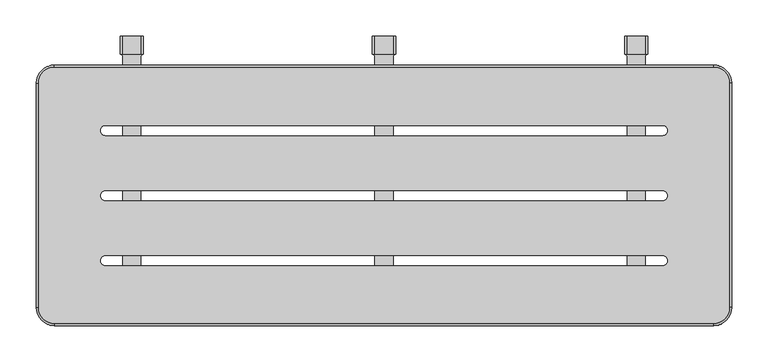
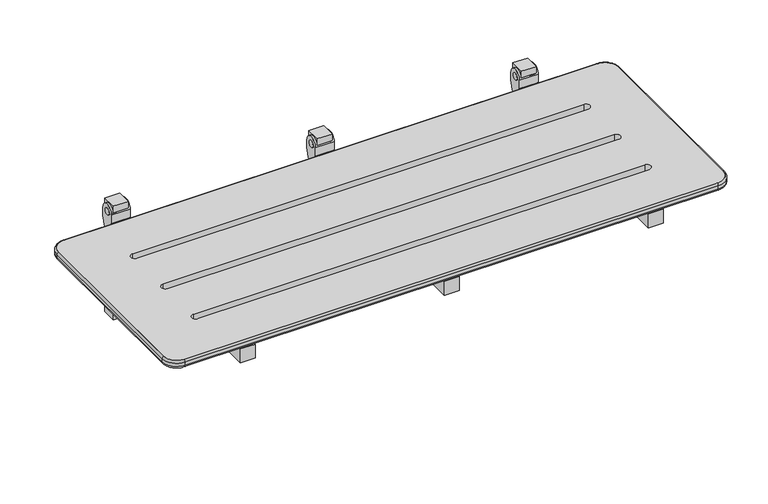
"""IFC4 building model written with IfcOpenShell, lengths in millimetres: proxy geometry, Shower Seat_Metlam_Folding : 960w x 400d x 205h (ML991_CL)."""

import ifcopenshell
import ifcopenshell.guid

model = None  # the IFC model being written
_history = None  # IfcOwnerHistory: only IFC2X3 demands one
_inside = {}  # id of a spatial element -> (the spatial element, [elements in it])
_under = {}  # id of a project, library or spatial element -> (it, [spatial elements below it])
_declared = {}  # id of a project -> (the project, [libraries it declares])
_typed = {}  # id of a type object -> (the type object, [elements of that type])
_made_of = {}  # id of a material, layer set ... -> (it, [elements and type objects made of it])


def new_model(schema):
    """Start an empty IFC model of exactly this schema.

    Asked for "IFC4X3", IfcOpenShell would pick the latest addendum, in which some entities
    have other attributes; the version numbers below select the first issue.
    IFC2X3 requires an IfcOwnerHistory on every rooted entity: one is made here for all.
    """
    global model, _history
    if schema == "IFC4X3":
        model = ifcopenshell.file(schema_version=(4, 3, 0, 0))
    else:
        model = ifcopenshell.file(schema=schema)
    _inside.clear()
    _under.clear()
    _declared.clear()
    _typed.clear()
    _made_of.clear()
    _history = None
    if model.schema == "IFC2X3":
        org = make("IfcOrganization", Name="unknown")
        user = make(
            "IfcPersonAndOrganization",
            ThePerson=make("IfcPerson", FamilyName="unknown"),
            TheOrganization=org,
        )
        app = make(
            "IfcApplication",
            ApplicationDeveloper=org,
            Version="unknown",
            ApplicationFullName="unknown",
            ApplicationIdentifier="unknown",
        )
        _history = make(
            "IfcOwnerHistory",
            OwningUser=user,
            OwningApplication=app,
            ChangeAction="ADDED",
            CreationDate=0,
        )
    return model


def make(cls, **values):
    """One entity of the class cls with the attributes given. An attribute that is None is left unset."""
    return model.create_entity(
        cls, **{name: value for name, value in values.items() if value is not None}
    )


def rooted(cls, **values):
    """An entity with a GlobalId (a new one), such as an element, a storey or a relation."""
    return make(cls, GlobalId=ifcopenshell.guid.new(), OwnerHistory=_history, **values)


def si_unit(unit_type, name, prefix=None):
    """IfcSIUnit, for example si_unit("LENGTHUNIT", "METRE", prefix="MILLI")."""
    return make("IfcSIUnit", UnitType=unit_type, Prefix=prefix, Name=name)


def assignment(units):
    """IfcUnitAssignment: the units of a project."""
    return None if units is None else make("IfcUnitAssignment", Units=units)


def point(xyz):
    """IfcCartesianPoint."""
    return None if xyz is None else make("IfcCartesianPoint", Coordinates=xyz)


def direction(xyz):
    """IfcDirection."""
    return None if xyz is None else make("IfcDirection", DirectionRatios=xyz)


def frame(location, z_axis=None, x_axis=None):
    """IfcAxis2Placement3D, a coordinate frame: its origin and axes. An axis left out is left unset."""
    return make(
        "IfcAxis2Placement3D",
        Location=point(location),
        Axis=direction(z_axis),
        RefDirection=direction(x_axis),
    )


def frame_2d(location, x_axis=None):
    """IfcAxis2Placement2D, a coordinate frame in the plane: its origin and x axis."""
    return make(
        "IfcAxis2Placement2D", Location=point(location), RefDirection=direction(x_axis)
    )


def origin():
    """The frame at (0, 0, 0) with its axes left unset."""
    return frame((0.0, 0.0, 0.0))


def place(relative_to, where):
    """IfcLocalPlacement: puts the frame where relative to a parent placement (None: the world)."""
    return make(
        "IfcLocalPlacement", PlacementRelTo=relative_to, RelativePlacement=where
    )


def context(
    kind, dimensions, precision=None, world=None, true_north=None, identifier=None
):
    """IfcGeometricRepresentationContext, for example the 3D "Model" context."""
    return make(
        "IfcGeometricRepresentationContext",
        ContextIdentifier=identifier,
        ContextType=kind,
        CoordinateSpaceDimension=dimensions,
        Precision=precision,
        WorldCoordinateSystem=world,
        TrueNorth=true_north,
    )


def project(units=None, contexts=None):
    """IfcProject with its units and contexts."""
    return rooted(
        "IfcProject",
        Name="project",
        RepresentationContexts=contexts,
        UnitsInContext=assignment(units),
    )


def spatial(cls, under=None, at=None, **own):
    """A site, building, storey or space (cls), placed at a placement, below another one or the project."""
    s = rooted(cls, ObjectPlacement=at, **own)
    if under is not None:
        _under.setdefault(under.id(), (under, []))[1].append(s)
    return s


def polyline(points):
    """IfcPolyline through the points."""
    return make("IfcPolyline", Points=[point(p) for p in points])


def circle_curve(where, radius):
    """IfcCircle in the frame where."""
    return make("IfcCircle", Position=where, Radius=radius)


def ellipse_curve(where, semi_axis1, semi_axis2):
    """IfcEllipse in the frame where."""
    return make(
        "IfcEllipse", Position=where, SemiAxis1=semi_axis1, SemiAxis2=semi_axis2
    )


def trimmed(basis, trim1, trim2, sense, master):
    """IfcTrimmedCurve: the piece of a basis curve between two trims."""
    return make(
        "IfcTrimmedCurve",
        BasisCurve=basis,
        Trim1=trim1,
        Trim2=trim2,
        SenseAgreement=sense,
        MasterRepresentation=master,
    )


def segment(curve, same_sense, transition):
    """IfcCompositeCurveSegment."""
    return make(
        "IfcCompositeCurveSegment",
        Transition=transition,
        SameSense=same_sense,
        ParentCurve=curve,
    )


def composite_curve(segments, self_intersect=None):
    """IfcCompositeCurve: segments joined end to end."""
    return make("IfcCompositeCurve", Segments=segments, SelfIntersect=self_intersect)


def outline(outer, holes=None, kind="AREA"):
    """IfcArbitraryClosedProfileDef: a profile drawn as a closed curve; with holes, ...WithVoids."""
    if holes is None:
        return make("IfcArbitraryClosedProfileDef", ProfileType=kind, OuterCurve=outer)
    return make(
        "IfcArbitraryProfileDefWithVoids",
        ProfileType=kind,
        OuterCurve=outer,
        InnerCurves=holes,
    )


def extrude(swept, where, along, depth):
    """IfcExtrudedAreaSolid: the profile swept, set in the frame where, extruded along a direction by depth."""
    return make(
        "IfcExtrudedAreaSolid",
        SweptArea=swept,
        Position=where,
        ExtrudedDirection=direction(along),
        Depth=depth,
    )


def shape(context_of_items, identifier, shape_type, items):
    """IfcShapeRepresentation: the items that make up one representation, for example the "Body"."""
    return make(
        "IfcShapeRepresentation",
        ContextOfItems=context_of_items,
        RepresentationIdentifier=identifier,
        RepresentationType=shape_type,
        Items=items,
    )


def source(mapping_origin, context_of_items, identifier, shape_type, items):
    """IfcRepresentationMap: a shape defined once, which mapped items show again and again."""
    return make(
        "IfcRepresentationMap",
        MappingOrigin=mapping_origin,
        MappedRepresentation=shape(context_of_items, identifier, shape_type, items),
    )


def transform(
    local_origin,
    x_axis=None,
    y_axis=None,
    z_axis=None,
    scale=None,
    scale2=None,
    scale3=None,
    uniform=True,
):
    """IfcCartesianTransformationOperator3D, or its non-uniform kind. x_axis, y_axis, z_axis: its Axis1, 2, 3."""
    if uniform:
        return make(
            "IfcCartesianTransformationOperator3D",
            Axis1=direction(x_axis),
            Axis2=direction(y_axis),
            LocalOrigin=point(local_origin),
            Scale=scale,
            Axis3=direction(z_axis),
        )
    return make(
        "IfcCartesianTransformationOperator3DnonUniform",
        Axis1=direction(x_axis),
        Axis2=direction(y_axis),
        LocalOrigin=point(local_origin),
        Scale=scale,
        Axis3=direction(z_axis),
        Scale2=scale2,
        Scale3=scale3,
    )


def mapped(mapping_source, mapping_target):
    """IfcMappedItem: shows the shape of a source again, moved by a transform."""
    return make(
        "IfcMappedItem", MappingSource=mapping_source, MappingTarget=mapping_target
    )


def made_of(thing, what):
    """Note that an element or type object is made of a material, layer set ...; save() writes the relation."""
    if what is not None:
        _made_of.setdefault(what.id(), (what, []))[1].append(thing)
    return thing


def element(
    cls,
    number,
    at=None,
    inside=None,
    cuts=None,
    type_object=None,
    material=None,
    context=None,
    identifier="Body",
    shape_type=None,
    held_by="IfcProductDefinitionShape",
    body=None,
    shapes=None,
    **own,
):
    """One element of the class cls, such as IfcWall. Its Tag is "e" and its number.

    at: its placement. inside: the storey or other place that contains it. cuts: it is an
    opening in that element (IfcRelVoidsElement). A single representation is given by context,
    identifier, shape_type and body (its items); several are given by shapes. held_by: the class
    of the entity that holds the representations. save() writes the other relations.
    """
    e = rooted(cls, Tag="e%d" % number, ObjectPlacement=at, **own)
    if body is not None:
        shapes = [shape(context, identifier, shape_type, body)]
    if shapes is not None:
        e.Representation = make(held_by, Representations=shapes)
    if inside is not None:
        _inside.setdefault(inside.id(), (inside, []))[1].append(e)
    if cuts is not None:
        rooted(
            "IfcRelVoidsElement", RelatingBuildingElement=cuts, RelatedOpeningElement=e
        )
    if type_object is not None:
        _typed.setdefault(type_object.id(), (type_object, []))[1].append(e)
    return made_of(e, material)


def aggregate(whole, parts):
    """IfcRelAggregates: a whole, such as a stair, and the parts it consists of."""
    return rooted("IfcRelAggregates", RelatingObject=whole, RelatedObjects=parts)


def save(model, path):
    """Write the relations noted so far, then the file.

    IfcRelAggregates (storeys below a building ...), IfcRelContainedInSpatialStructure (elements
    in a storey), IfcRelDefinesByType, IfcRelAssociatesMaterial and IfcRelDeclares: one each for
    every whole, place, type object, material and project.
    """
    for whole, parts in _under.values():
        aggregate(whole, parts)
    for where, things in _inside.values():
        rooted(
            "IfcRelContainedInSpatialStructure",
            RelatedElements=things,
            RelatingStructure=where,
        )
    for kind, things in _typed.values():
        rooted("IfcRelDefinesByType", RelatedObjects=things, RelatingType=kind)
    for what, things in _made_of.values():
        rooted("IfcRelAssociatesMaterial", RelatedObjects=things, RelatingMaterial=what)
    for by, libraries in _declared.values():
        rooted("IfcRelDeclares", RelatingContext=by, RelatedDefinitions=libraries)
    model.write(path)


def plane_surface(at):
    """IfcPlane: the flat surface through the origin of the frame at, square to its z axis."""
    return make("IfcPlane", Position=at)


def cylinder_surface(at, radius):
    """IfcCylindricalSurface: all points at the distance radius from the z axis of the frame at."""
    return make("IfcCylindricalSurface", Position=at, Radius=radius)


def revolved_surface(curve, axis_point, axis_direction):
    """IfcSurfaceOfRevolution: the curve turned about the line through axis_point along axis_direction."""
    return make(
        "IfcSurfaceOfRevolution",
        SweptCurve=make("IfcArbitraryOpenProfileDef", ProfileType="CURVE", Curve=curve),
        AxisPosition=make("IfcAxis1Placement", Location=point(axis_point), Axis=direction(axis_direction)),
    )


def advanced_brep(points, edges, surfaces, faces):
    """IfcAdvancedBrep: a solid bounded by faces that lie on surfaces and meet in shared edges.

    An edge is (start, end): straight between two places in points (the first is 0);
    or (start, end, curve); or (start, end, curve, False) where it runs against its curve.
    A face is (place in surfaces, loops), or (place, loops, False) where it looks against
    its surface's normal. A loop lists edges by number (the first is 1), with a minus sign
    where the edge is run from its end to its start. The first loop is the outer one.
    """
    corners = [point(p) for p in points]
    vertices = [make("IfcVertexPoint", VertexGeometry=c) for c in corners]
    made = []
    for start, end, *more in edges:
        made.append(
            make(
                "IfcEdgeCurve",
                EdgeStart=vertices[start],
                EdgeEnd=vertices[end],
                EdgeGeometry=more[0] if more else make("IfcPolyline", Points=[corners[start], corners[end]]),
                SameSense=more[1] if len(more) > 1 else True,
            )
        )
    hull = []
    for where, loops, *sense in faces:
        bounds = []
        for j, loop in enumerate(loops):
            ring = [make("IfcOrientedEdge", EdgeElement=made[abs(k) - 1], Orientation=k > 0) for k in loop]
            bounds.append(
                make(
                    "IfcFaceOuterBound" if j == 0 else "IfcFaceBound",
                    Bound=make("IfcEdgeLoop", EdgeList=ring),
                    Orientation=True,
                )
            )
        hull.append(make("IfcAdvancedFace", Bounds=bounds, FaceSurface=surfaces[where], SameSense=sense[0] if sense else True))
    return make("IfcAdvancedBrep", Outer=make("IfcClosedShell", CfsFaces=hull))


def specialty_equipment_4b575479(model_context):
    return source(origin(), model_context, "Body", "SolidModel", [
        advanced_brep(
        [(-558.8282526, -245.8822574, 437.0), (-558.8282526, -245.8822574, 462.0), (-526.8282526, -245.8822574, 462.0), (-526.8282526, -245.8822574, 437.0), (-530.3282526, -620.8995044, 462.0), (-555.3282526, -620.8995044, 462.0), (-555.3282526, -620.8995044, 437.0), (-530.3282526, -620.8995044, 437.0), (-530.3282526, -249.3822574, 437.0), (-530.3282526, -249.3822574, 462.0), (-555.3282526, -249.3822574, 437.0), (-555.3282526, -249.3822574, 462.0)],
        [
            (0, 1),
            (1, 2),
            (2, 3),
            (3, 0),
            (4, 5),
            (5, 6),
            (6, 7),
            (7, 4),
            (7, 8),
            (8, 9),
            (9, 4),
            (3, 8, circle_curve(frame((-526.8282526, -249.3822574, 437.0), z_axis=(0.0, 0.0, 1.0), x_axis=(-1.0, 0.0, 0.0)), 3.5)),
            (6, 10),
            (10, 0, circle_curve(frame((-558.8282526, -249.3822574, 437.0), z_axis=(0.0, 0.0, 1.0), x_axis=(-1.0, 0.0, 0.0)), 3.5)),
            (5, 11),
            (11, 10),
            (1, 11, circle_curve(frame((-558.8282526, -249.3822574, 462.0), z_axis=(0.0, 0.0, -1.0), x_axis=(-1.0, 0.0, 0.0)), 3.5)),
            (9, 2, circle_curve(frame((-526.8282526, -249.3822574, 462.0), z_axis=(0.0, 0.0, -1.0), x_axis=(-1.0, 0.0, 0.0)), 3.5)),
        ],
        [
            plane_surface(frame((-530.3282526, -245.8822574, 462.0), z_axis=(0.0, 1.0, 0.0), x_axis=(0.0, 0.0, -1.0))),
            plane_surface(frame((-530.3282526, -620.8995044, 462.0), z_axis=(0.0, -1.0, 0.0), x_axis=(0.0, 0.0, 1.0))),
            plane_surface(frame((-530.3282526, -245.8822574, 462.0), z_axis=(1.0, 0.0, 0.0), x_axis=(0.0, -1.0, 0.0))),
            plane_surface(frame((-530.3282526, -245.8822574, 437.0), z_axis=(0.0, 0.0, -1.0), x_axis=(0.0, -1.0, 0.0))),
            plane_surface(frame((-555.3282526, -245.8822574, 437.0), z_axis=(-1.0, 0.0, 0.0), x_axis=(0.0, -1.0, 0.0))),
            plane_surface(frame((-555.3282526, -245.8822574, 462.0), z_axis=(0.0, 0.0, 1.0), x_axis=(0.0, -1.0, 0.0))),
            revolved_surface(polyline([(-562.3282526, -249.3822574, 437.0), (-562.3282526, -249.3822574, 462.0)]), (-558.8282526, -249.3822574, 437.0), (0.0, 0.0, -1.0)),
            revolved_surface(polyline([(-530.3282526, -249.3822574, 437.0), (-530.3282526, -249.3822574, 462.0)]), (-526.8282526, -249.3822574, 492.2814789), (0.0, 0.0, -1.0)),
        ],
        [
            (0, [[1, 2, 3, 4]]),
            (1, [[5, 6, 7, 8]]),
            (2, [[-8, 9, 10, 11]]),
            (3, [[-4, 12, -9, -7, 13, 14]]),
            (4, [[-6, 15, 16, -13]]),
            (5, [[-2, 17, -15, -5, -11, 18]]),
            (6, [[-17, -1, -14, -16]]),
            (7, [[-18, -10, -12, -3]]),
        ],
    ),
        advanced_brep(
        [(137.1717474, -245.8822574, 437.0), (137.1717474, -245.8822574, 462.0), (169.1717474, -245.8822574, 462.0), (169.1717474, -245.8822574, 437.0), (165.6717474, -620.8995044, 462.0), (140.6717474, -620.8995044, 462.0), (140.6717474, -620.8995044, 437.0), (165.6717474, -620.8995044, 437.0), (165.6717474, -249.3822574, 437.0), (140.6717474, -249.3822574, 437.0), (140.6717474, -249.3822574, 462.0), (165.6717474, -249.3822574, 462.0)],
        [
            (0, 1),
            (1, 2),
            (2, 3),
            (3, 0),
            (4, 5),
            (5, 6),
            (6, 7),
            (7, 4),
            (3, 8, circle_curve(frame((169.1717474, -249.3822574, 437.0), z_axis=(0.0, 0.0, 1.0), x_axis=(-1.0, 0.0, 0.0)), 3.5)),
            (8, 7),
            (6, 9),
            (9, 0, circle_curve(frame((137.1717474, -249.3822574, 437.0), z_axis=(0.0, 0.0, 1.0), x_axis=(-1.0, 0.0, 0.0)), 3.5)),
            (1, 10, circle_curve(frame((137.1717474, -249.3822574, 462.0), z_axis=(0.0, 0.0, -1.0), x_axis=(-1.0, 0.0, 0.0)), 3.5)),
            (10, 5),
            (4, 11),
            (11, 2, circle_curve(frame((169.1717474, -249.3822574, 462.0), z_axis=(0.0, 0.0, -1.0), x_axis=(-1.0, 0.0, 0.0)), 3.5)),
            (8, 11),
            (10, 9),
        ],
        [
            plane_surface(frame((-530.3282526, -245.8822574, 462.0), z_axis=(0.0, 1.0, 0.0), x_axis=(0.0, 0.0, -1.0))),
            plane_surface(frame((-530.3282526, -620.8995044, 462.0), z_axis=(0.0, -1.0, 0.0), x_axis=(0.0, 0.0, 1.0))),
            plane_surface(frame((-530.3282526, -245.8822574, 437.0), z_axis=(0.0, 0.0, -1.0), x_axis=(0.0, -1.0, 0.0))),
            plane_surface(frame((-555.3282526, -245.8822574, 462.0), z_axis=(0.0, 0.0, 1.0), x_axis=(0.0, -1.0, 0.0))),
            plane_surface(frame((165.6717474, -245.8822574, 462.0), z_axis=(1.0, 0.0, 0.0), x_axis=(0.0, -1.0, 0.0))),
            plane_surface(frame((140.6717474, -245.8822574, 437.0), z_axis=(-1.0, 0.0, 0.0), x_axis=(0.0, -1.0, 0.0))),
            revolved_surface(polyline([(165.6717474, -249.3822574, 437.0), (165.6717474, -249.3822574, 462.0)]), (169.1717474, -249.3822574, 492.2814789), (0.0, 0.0, -1.0)),
            revolved_surface(polyline([(133.6717474, -249.3822574, 437.0), (133.6717474, -249.3822574, 462.0)]), (137.1717474, -249.3822574, 492.2814789), (0.0, 0.0, -1.0)),
        ],
        [
            (0, [[1, 2, 3, 4]]),
            (1, [[5, 6, 7, 8]]),
            (2, [[-4, 9, 10, -7, 11, 12]]),
            (3, [[-2, 13, 14, -5, 15, 16]]),
            (4, [[-8, -10, 17, -15]]),
            (5, [[-6, -14, 18, -11]]),
            (6, [[-16, -17, -9, -3]]),
            (7, [[-13, -1, -12, -18]]),
        ],
    ),
        advanced_brep(
        [(-210.8282526, -245.8822574, 437.0), (-210.8282526, -245.8822574, 462.0), (-178.8282526, -245.8822574, 462.0), (-178.8282526, -245.8822574, 437.0), (-182.3282526, -620.8995044, 462.0), (-207.3282526, -620.8995044, 462.0), (-207.3282526, -620.8995044, 437.0), (-182.3282526, -620.8995044, 437.0), (-182.3282526, -249.3822574, 437.0), (-207.3282526, -249.3822574, 437.0), (-207.3282526, -249.3822574, 462.0), (-182.3282526, -249.3822574, 462.0)],
        [
            (0, 1),
            (1, 2),
            (2, 3),
            (3, 0),
            (4, 5),
            (5, 6),
            (6, 7),
            (7, 4),
            (3, 8, circle_curve(frame((-178.8282526, -249.3822574, 437.0), z_axis=(0.0, 0.0, 1.0), x_axis=(-1.0, 0.0, 0.0)), 3.5)),
            (8, 7),
            (6, 9),
            (9, 0, circle_curve(frame((-210.8282526, -249.3822574, 437.0), z_axis=(0.0, 0.0, 1.0), x_axis=(-1.0, 0.0, 0.0)), 3.5)),
            (1, 10, circle_curve(frame((-210.8282526, -249.3822574, 462.0), z_axis=(0.0, 0.0, -1.0), x_axis=(-1.0, 0.0, 0.0)), 3.5)),
            (10, 5),
            (4, 11),
            (11, 2, circle_curve(frame((-178.8282526, -249.3822574, 462.0), z_axis=(0.0, 0.0, -1.0), x_axis=(-1.0, 0.0, 0.0)), 3.5)),
            (8, 11),
            (10, 9),
        ],
        [
            plane_surface(frame((-530.3282526, -245.8822574, 462.0), z_axis=(0.0, 1.0, 0.0), x_axis=(0.0, 0.0, -1.0))),
            plane_surface(frame((-530.3282526, -620.8995044, 462.0), z_axis=(0.0, -1.0, 0.0), x_axis=(0.0, 0.0, 1.0))),
            plane_surface(frame((-530.3282526, -245.8822574, 437.0), z_axis=(0.0, 0.0, -1.0), x_axis=(0.0, -1.0, 0.0))),
            plane_surface(frame((-555.3282526, -245.8822574, 462.0), z_axis=(0.0, 0.0, 1.0), x_axis=(0.0, -1.0, 0.0))),
            plane_surface(frame((-182.3282526, -245.8822574, 462.0), z_axis=(1.0, 0.0, 0.0), x_axis=(0.0, -1.0, 0.0))),
            plane_surface(frame((-207.3282526, -245.8822574, 437.0), z_axis=(-1.0, 0.0, 0.0), x_axis=(0.0, -1.0, 0.0))),
            revolved_surface(polyline([(-182.3282526, -249.3822574, 437.0), (-182.3282526, -249.3822574, 462.0)]), (-178.8282526, -249.3822574, 492.2814789), (0.0, 0.0, -1.0)),
            revolved_surface(polyline([(-214.3282526, -249.3822574, 437.0), (-214.3282526, -249.3822574, 462.0)]), (-210.8282526, -249.3822574, 492.2814789), (0.0, 0.0, -1.0)),
        ],
        [
            (0, [[1, 2, 3, 4]]),
            (1, [[5, 6, 7, 8]]),
            (2, [[-4, 9, 10, -7, 11, 12]]),
            (3, [[-2, 13, 14, -5, 15, 16]]),
            (4, [[-8, -10, 17, -15]]),
            (5, [[-6, -14, 18, -11]]),
            (6, [[-16, -17, -9, -3]]),
            (7, [[-13, -1, -12, -18]]),
        ],
    ),
        extrude(outline(composite_curve([segment(trimmed(circle_curve(frame_2d((-233.3641732, 476.6816241)), 5.8579938), [point((-233.3641732, 470.8236303))], [point((-233.3641732, 482.539618))], False, "CARTESIAN"), True, "CONTINUOUS"), segment(trimmed(circle_curve(frame_2d((-233.3641732, 476.6816241)), 5.8579938), [point((-233.3641732, 482.539618))], [point((-233.3641732, 470.8236303))], False, "CARTESIAN"), True, "CONTINUOUS")], self_intersect=False)), frame((-210.8282526, 0.0, 0.0), z_axis=(1.0, 0.0, 0.0), x_axis=(0.0, 1.0, 0.0)), (0.0, 0.0, 1.0), 32.0),
        extrude(outline(composite_curve([segment(trimmed(circle_curve(frame_2d((-233.3641732, 476.6816241)), 5.8579938), [point((-233.3641732, 470.8236303))], [point((-233.3641732, 482.539618))], False, "CARTESIAN"), True, "CONTINUOUS"), segment(trimmed(circle_curve(frame_2d((-233.3641732, 476.6816241)), 5.8579938), [point((-233.3641732, 482.539618))], [point((-233.3641732, 470.8236303))], False, "CARTESIAN"), True, "CONTINUOUS")], self_intersect=False)), frame((-558.8282526, 0.0, 0.0), z_axis=(1.0, 0.0, 0.0), x_axis=(0.0, 1.0, 0.0)), (0.0, 0.0, 1.0), 32.0),
        extrude(outline(composite_curve([segment(trimmed(circle_curve(frame_2d((-233.3641732, 476.6816241)), 5.8579938), [point((-233.3641732, 470.8236303))], [point((-233.3641732, 482.539618))], False, "CARTESIAN"), True, "CONTINUOUS"), segment(trimmed(circle_curve(frame_2d((-233.3641732, 476.6816241)), 5.8579938), [point((-233.3641732, 482.539618))], [point((-233.3641732, 470.8236303))], False, "CARTESIAN"), True, "CONTINUOUS")], self_intersect=False)), frame((137.1717474, 0.0, 0.0), z_axis=(1.0, 0.0, 0.0), x_axis=(0.0, 1.0, 0.0)), (0.0, 0.0, 1.0), 32.0),
        extrude(outline(composite_curve([segment(polyline([(-220.8995044, 477.2538235), (-220.8995044, 462.0007534)]), True, "CONTINUOUS"), segment(trimmed(circle_curve(frame_2d((-245.8995044, 462.0007534)), 25.0), [point((-220.8995044, 462.0007534))], [point((-245.8822574, 437.0007594))], False, "CARTESIAN"), True, "CONTINUOUS"), segment(polyline([(-245.8822574, 437.0007594), (-245.8822574, 477.2538235)]), True, "CONTINUOUS"), segment(trimmed(circle_curve(frame_2d((-233.3908809, 477.2538235)), 12.4913765), [point((-245.8822574, 477.2538235))], [point((-220.8995044, 477.2538235))], False, "CARTESIAN"), True, "CONTINUOUS")], self_intersect=False)), frame((-558.8282526, 0.0, 0.0), z_axis=(1.0, 0.0, 0.0), x_axis=(0.0, 1.0, 0.0)), (0.0, 0.0, 1.0), 32.0),
        extrude(outline(composite_curve([segment(polyline([(-220.8995044, 477.2538235), (-220.8995044, 462.0007534)]), True, "CONTINUOUS"), segment(trimmed(circle_curve(frame_2d((-245.8995044, 462.0007534)), 25.0), [point((-220.8995044, 462.0007534))], [point((-245.8822574, 437.0007594))], False, "CARTESIAN"), True, "CONTINUOUS"), segment(polyline([(-245.8822574, 437.0007594), (-245.8822574, 477.2538235)]), True, "CONTINUOUS"), segment(trimmed(circle_curve(frame_2d((-233.3908809, 477.2538235)), 12.4913765), [point((-245.8822574, 477.2538235))], [point((-220.8995044, 477.2538235))], False, "CARTESIAN"), True, "CONTINUOUS")], self_intersect=False)), frame((137.1717474, 0.0, 0.0), z_axis=(1.0, 0.0, 0.0), x_axis=(0.0, 1.0, 0.0)), (0.0, 0.0, 1.0), 32.0),
        extrude(outline(composite_curve([segment(polyline([(-220.8995044, 477.2538235), (-220.8995044, 462.0007534)]), True, "CONTINUOUS"), segment(trimmed(circle_curve(frame_2d((-245.8995044, 462.0007534)), 25.0), [point((-220.8995044, 462.0007534))], [point((-245.8822574, 437.0007594))], False, "CARTESIAN"), True, "CONTINUOUS"), segment(polyline([(-245.8822574, 437.0007594), (-245.8822574, 477.2538235)]), True, "CONTINUOUS"), segment(trimmed(circle_curve(frame_2d((-233.3908809, 477.2538235)), 12.4913765), [point((-245.8822574, 477.2538235))], [point((-220.8995044, 477.2538235))], False, "CARTESIAN"), True, "CONTINUOUS")], self_intersect=False)), frame((-210.8282526, 0.0, 0.0), z_axis=(1.0, 0.0, 0.0), x_axis=(0.0, 1.0, 0.0)), (0.0, 0.0, 1.0), 32.0),
        extrude(outline(polyline([(492.2814789, 165.6717474), (492.2814789, 140.6717474), (287.2814789, 140.6717474), (287.2814789, 165.6717474), (492.2814789, 165.6717474)]), holes=[composite_curve([segment(trimmed(circle_curve(frame_2d((313.2814789, 153.1717474)), 3.5), [point((313.2814789, 156.6717474))], [point((313.2814789, 149.6717474))], True, "CARTESIAN"), True, "CONTINUOUS"), segment(trimmed(circle_curve(frame_2d((313.2814789, 153.1717474)), 3.5), [point((313.2814789, 149.6717474))], [point((313.2814789, 156.6717474))], True, "CARTESIAN"), True, "CONTINUOUS")], self_intersect=False), composite_curve([segment(trimmed(circle_curve(frame_2d((423.2814789, 153.1717474)), 3.5), [point((423.2814789, 156.6717474))], [point((423.2814789, 149.6717474))], True, "CARTESIAN"), True, "CONTINUOUS"), segment(trimmed(circle_curve(frame_2d((423.2814789, 153.1717474)), 3.5), [point((423.2814789, 149.6717474))], [point((423.2814789, 156.6717474))], True, "CARTESIAN"), True, "CONTINUOUS")], self_intersect=False)]), frame((0.0, -245.8995044, 0.0), z_axis=(0.0, 1.0, 0.0), x_axis=(0.0, 0.0, 1.0)), (0.0, 0.0, 1.0), 25.0),
        extrude(outline(polyline([(492.2814789, -182.3282526), (492.2814789, -207.3282526), (287.2814789, -207.3282526), (287.2814789, -182.3282526), (492.2814789, -182.3282526)]), holes=[composite_curve([segment(trimmed(circle_curve(frame_2d((313.2814789, -194.8282526)), 3.5), [point((313.2814789, -191.3282526))], [point((313.2814789, -198.3282526))], True, "CARTESIAN"), True, "CONTINUOUS"), segment(trimmed(circle_curve(frame_2d((313.2814789, -194.8282526)), 3.5), [point((313.2814789, -198.3282526))], [point((313.2814789, -191.3282526))], True, "CARTESIAN"), True, "CONTINUOUS")], self_intersect=False), composite_curve([segment(trimmed(circle_curve(frame_2d((423.2814789, -194.8282526)), 3.5), [point((423.2814789, -191.3282526))], [point((423.2814789, -198.3282526))], True, "CARTESIAN"), True, "CONTINUOUS"), segment(trimmed(circle_curve(frame_2d((423.2814789, -194.8282526)), 3.5), [point((423.2814789, -198.3282526))], [point((423.2814789, -191.3282526))], True, "CARTESIAN"), True, "CONTINUOUS")], self_intersect=False)]), frame((0.0, -245.8995044, 0.0), z_axis=(0.0, 1.0, 0.0), x_axis=(0.0, 0.0, 1.0)), (0.0, 0.0, 1.0), 25.0),
        extrude(outline(polyline([(492.2814789, -530.3282526), (492.2814789, -555.3282526), (287.2814789, -555.3282526), (287.2814789, -530.3282526), (492.2814789, -530.3282526)]), holes=[composite_curve([segment(trimmed(circle_curve(frame_2d((313.2814789, -542.8282526)), 3.5), [point((313.2814789, -539.3282526))], [point((313.2814789, -546.3282526))], True, "CARTESIAN"), True, "CONTINUOUS"), segment(trimmed(circle_curve(frame_2d((313.2814789, -542.8282526)), 3.5), [point((313.2814789, -546.3282526))], [point((313.2814789, -539.3282526))], True, "CARTESIAN"), True, "CONTINUOUS")], self_intersect=False), composite_curve([segment(trimmed(circle_curve(frame_2d((423.2814789, -542.8282526)), 3.5), [point((423.2814789, -539.3282526))], [point((423.2814789, -546.3282526))], True, "CARTESIAN"), True, "CONTINUOUS"), segment(trimmed(circle_curve(frame_2d((423.2814789, -542.8282526)), 3.5), [point((423.2814789, -546.3282526))], [point((423.2814789, -539.3282526))], True, "CARTESIAN"), True, "CONTINUOUS")], self_intersect=False)]), frame((0.0, -245.8995044, 0.0), z_axis=(0.0, 1.0, 0.0), x_axis=(0.0, 0.0, 1.0)), (0.0, 0.0, 1.0), 25.0),
        advanced_brep(
        [(282.6717474, -595.8995044, 475.0), (260.1717474, -618.3995044, 475.0), (260.1717474, -620.8995044, 471.5), (285.1717474, -595.8995044, 471.5), (282.6717474, -595.8995044, 462.0), (260.1717474, -618.3995044, 462.0), (285.1717474, -595.8995044, 465.5039254), (260.1717474, -620.8995044, 465.5039254), (285.1717474, -285.8995044, 471.5), (282.6717474, -285.8995044, 475.0), (282.6717474, -285.8995044, 462.0), (285.1717474, -285.8995044, 465.5039254), (260.1717474, -263.3995044, 475.0), (260.1717474, -260.8995044, 471.5), (260.1717474, -263.3995044, 462.0), (260.1717474, -260.8995044, 465.5039254), (-649.8282526, -260.8995044, 471.5), (-649.8282526, -263.3995044, 475.0), (-649.8282526, -263.3995044, 462.0), (-649.8282526, -260.8995044, 465.5039254), (-672.3282526, -285.8995044, 475.0), (-674.8282526, -285.8995044, 471.5), (-672.3282526, -285.8995044, 462.0), (-674.8282526, -285.8995044, 465.5039254), (-674.8282526, -595.8995044, 471.5), (-672.3282526, -595.8995044, 475.0), (-672.3282526, -595.8995044, 462.0), (-674.8282526, -595.8995044, 465.5039254), (-649.8282526, -618.3995044, 475.0), (-649.8282526, -620.8995044, 471.5), (-649.8282526, -618.3995044, 462.0), (-649.8282526, -620.8995044, 465.5039254)],
        [
            (0, 1, circle_curve(frame((260.1717474, -595.8995044, 475.0), z_axis=(0.0, 0.0, -1.0), x_axis=(0.0, -1.0, 0.0)), 22.5)),
            (1, 2, circle_curve(frame((260.1717474, -617.1995044, 471.5), z_axis=(1.0, 0.0, 0.0), x_axis=(0.0, 1.0, 0.0)), 3.7)),
            (2, 3, circle_curve(frame((260.1717474, -595.8995044, 471.5), z_axis=(0.0, 0.0, 1.0), x_axis=(0.0, -1.0, 0.0)), 25.0)),
            (3, 0, circle_curve(frame((281.4717474, -595.8995044, 471.5), z_axis=(0.0, -1.0, 0.0), x_axis=(-1.0, 0.0, 0.0)), 3.7)),
            (4, 5, circle_curve(frame((260.1717474, -595.8995044, 462.0), z_axis=(0.0, 0.0, -1.0), x_axis=(0.0, -1.0, 0.0)), 22.5)),
            (5, 1),
            (0, 4),
            (6, 7, circle_curve(frame((260.1717474, -595.8995044, 465.5039254), z_axis=(0.0, 0.0, -1.0), x_axis=(0.0, -1.0, 0.0)), 25.0)),
            (7, 5, circle_curve(frame((260.1717474, -617.1940057, 465.5039254), z_axis=(1.0, 0.0, 0.0), x_axis=(0.0, 1.0, 0.0)), 3.7054987)),
            (4, 6, circle_curve(frame((281.4662487, -595.8995044, 465.5039254), z_axis=(0.0, -1.0, 0.0), x_axis=(-1.0, 0.0, 0.0)), 3.7054987)),
            (2, 7),
            (6, 3),
            (3, 8),
            (8, 9, circle_curve(frame((281.4717474, -285.8995044, 471.5), z_axis=(0.0, -1.0, 0.0), x_axis=(-1.0, 0.0, 0.0)), 3.7)),
            (9, 0),
            (9, 10),
            (10, 4),
            (10, 11, circle_curve(frame((281.4662487, -285.8995044, 465.5039254), z_axis=(0.0, -1.0, 0.0), x_axis=(-1.0, 0.0, 0.0)), 3.7054987)),
            (11, 6),
            (11, 8),
            (12, 9, circle_curve(frame((260.1717474, -285.8995044, 475.0), z_axis=(0.0, 0.0, -1.0), x_axis=(1.0, 0.0, 0.0)), 22.5)),
            (8, 13, circle_curve(frame((260.1717474, -285.8995044, 471.5), z_axis=(0.0, 0.0, 1.0), x_axis=(1.0, 0.0, 0.0)), 25.0)),
            (13, 12, circle_curve(frame((260.1717474, -264.5995044, 471.5), z_axis=(1.0, 0.0, 0.0), x_axis=(0.0, -1.0, 0.0)), 3.7)),
            (14, 10, circle_curve(frame((260.1717474, -285.8995044, 462.0), z_axis=(0.0, 0.0, -1.0), x_axis=(1.0, 0.0, 0.0)), 22.5)),
            (12, 14),
            (15, 11, circle_curve(frame((260.1717474, -285.8995044, 465.5039254), z_axis=(0.0, 0.0, -1.0), x_axis=(1.0, 0.0, 0.0)), 25.0)),
            (14, 15, circle_curve(frame((260.1717474, -264.605003, 465.5039254), z_axis=(1.0, 0.0, 0.0), x_axis=(0.0, -1.0, 0.0)), 3.7054987)),
            (15, 13),
            (13, 16),
            (16, 17, circle_curve(frame((-649.8282526, -264.5995044, 471.5), z_axis=(1.0, 0.0, 0.0), x_axis=(0.0, -1.0, 0.0)), 3.7)),
            (17, 12),
            (17, 18),
            (18, 14),
            (18, 19, circle_curve(frame((-649.8282526, -264.605003, 465.5039254), z_axis=(1.0, 0.0, 0.0), x_axis=(0.0, -1.0, 0.0)), 3.7054987)),
            (19, 15),
            (19, 16),
            (20, 17, circle_curve(frame((-649.8282526, -285.8995044, 475.0), z_axis=(0.0, 0.0, -1.0), x_axis=(0.0, 1.0, 0.0)), 22.5)),
            (16, 21, circle_curve(frame((-649.8282526, -285.8995044, 471.5), z_axis=(0.0, 0.0, 1.0), x_axis=(0.0, 1.0, 0.0)), 25.0)),
            (21, 20, circle_curve(frame((-671.1282526, -285.8995044, 471.5), z_axis=(0.0, 1.0, 0.0), x_axis=(1.0, 0.0, 0.0)), 3.7)),
            (22, 18, circle_curve(frame((-649.8282526, -285.8995044, 462.0), z_axis=(0.0, 0.0, -1.0), x_axis=(0.0, 1.0, 0.0)), 22.5)),
            (20, 22),
            (23, 19, circle_curve(frame((-649.8282526, -285.8995044, 465.5039254), z_axis=(0.0, 0.0, -1.0), x_axis=(0.0, 1.0, 0.0)), 25.0)),
            (22, 23, circle_curve(frame((-671.1227539, -285.8995044, 465.5039254), z_axis=(0.0, 1.0, 0.0), x_axis=(1.0, 0.0, 0.0)), 3.7054987)),
            (23, 21),
            (21, 24),
            (24, 25, circle_curve(frame((-671.1282526, -595.8995044, 471.5), z_axis=(0.0, 1.0, 0.0), x_axis=(1.0, 0.0, 0.0)), 3.7)),
            (25, 20),
            (25, 26),
            (26, 22),
            (26, 27, circle_curve(frame((-671.1227539, -595.8995044, 465.5039254), z_axis=(0.0, 1.0, 0.0), x_axis=(1.0, 0.0, 0.0)), 3.7054987)),
            (27, 23),
            (27, 24),
            (28, 25, circle_curve(frame((-649.8282526, -595.8995044, 475.0), z_axis=(0.0, 0.0, -1.0), x_axis=(-1.0, 0.0, 0.0)), 22.5)),
            (24, 29, circle_curve(frame((-649.8282526, -595.8995044, 471.5), z_axis=(0.0, 0.0, 1.0), x_axis=(-1.0, 0.0, 0.0)), 25.0)),
            (29, 28, circle_curve(frame((-649.8282526, -617.1995044, 471.5), z_axis=(-1.0, 0.0, 0.0), x_axis=(0.0, 1.0, 0.0)), 3.7)),
            (30, 26, circle_curve(frame((-649.8282526, -595.8995044, 462.0), z_axis=(0.0, 0.0, -1.0), x_axis=(-1.0, 0.0, 0.0)), 22.5)),
            (28, 30),
            (31, 27, circle_curve(frame((-649.8282526, -595.8995044, 465.5039254), z_axis=(0.0, 0.0, -1.0), x_axis=(-1.0, 0.0, 0.0)), 25.0)),
            (30, 31, circle_curve(frame((-649.8282526, -617.1940057, 465.5039254), z_axis=(-1.0, 0.0, 0.0), x_axis=(0.0, 1.0, 0.0)), 3.7054987)),
            (31, 29),
            (29, 2),
            (1, 28),
            (5, 30),
            (7, 31),
        ],
        [
            revolved_surface(trimmed(ellipse_curve(frame((260.1717474, -617.1995044, 471.5), z_axis=(-1.0, 0.0, 0.0), x_axis=(0.0, 1.0, 0.0)), 3.7, 3.7), [point((260.1717474, -620.8995044, 471.5))], [point((260.1717474, -618.3995044, 475.0))], True, "CARTESIAN"), (260.1717474, -595.8995044, 475.0), (0.0, 0.0, 1.0)),
            revolved_surface(polyline([(260.1717474, -618.3995044, 475.0), (260.1717474, -618.3995044, 462.0)]), (260.1717474, -595.8995044, 475.0), (0.0, 0.0, 1.0)),
            revolved_surface(trimmed(ellipse_curve(frame((260.1717474, -617.1940057, 465.5039254), z_axis=(-1.0, 0.0, 0.0), x_axis=(0.0, 1.0, 0.0)), 3.7054987, 3.7054987), [point((260.1717474, -618.3995044, 462.0))], [point((260.1717474, -620.8995044, 465.5039254))], True, "CARTESIAN"), (260.1717474, -595.8995044, 475.0), (0.0, 0.0, 1.0)),
            cylinder_surface(frame((260.1717474, -595.8995044, 475.0), z_axis=(0.0, 0.0, 1.0), x_axis=(0.0, -1.0, 0.0)), 25.0),
            cylinder_surface(frame((281.4717474, -595.8995044, 471.5), z_axis=(0.0, -1.0, 0.0), x_axis=(-1.0, 0.0, 0.0)), 3.7),
            plane_surface(frame((282.6717474, -595.8995044, 475.0), z_axis=(-1.0, 0.0, 0.0), x_axis=(0.0, 1.0, 0.0))),
            cylinder_surface(frame((281.4662487, -595.8995044, 465.5039254), z_axis=(0.0, -1.0, 0.0), x_axis=(-1.0, 0.0, 0.0)), 3.7054987),
            plane_surface(frame((285.1717474, -595.8995044, 465.5039254), z_axis=(1.0, 0.0, 0.0), x_axis=(0.0, 1.0, 0.0))),
            revolved_surface(trimmed(ellipse_curve(frame((281.4717474, -285.8995044, 471.5), z_axis=(0.0, -1.0, 0.0), x_axis=(-1.0, 0.0, 0.0)), 3.7, 3.7), [point((285.1717474, -285.8995044, 471.5))], [point((282.6717474, -285.8995044, 475.0))], True, "CARTESIAN"), (260.1717474, -285.8995044, 475.0), (0.0, 0.0, 1.0)),
            revolved_surface(polyline([(282.6717474, -285.8995044, 475.0), (282.6717474, -285.8995044, 462.0)]), (260.1717474, -285.8995044, 475.0), (0.0, 0.0, 1.0)),
            revolved_surface(trimmed(ellipse_curve(frame((281.4662487, -285.8995044, 465.5039254), z_axis=(0.0, -1.0, 0.0), x_axis=(-1.0, 0.0, 0.0)), 3.7054987, 3.7054987), [point((282.6717474, -285.8995044, 462.0))], [point((285.1717474, -285.8995044, 465.5039254))], True, "CARTESIAN"), (260.1717474, -285.8995044, 475.0), (0.0, 0.0, 1.0)),
            cylinder_surface(frame((260.1717474, -285.8995044, 475.0), z_axis=(0.0, 0.0, 1.0), x_axis=(1.0, 0.0, 0.0)), 25.0),
            cylinder_surface(frame((260.1717474, -264.5995044, 471.5), z_axis=(1.0, 0.0, 0.0), x_axis=(0.0, -1.0, 0.0)), 3.7),
            plane_surface(frame((260.1717474, -263.3995044, 475.0), z_axis=(0.0, -1.0, 0.0), x_axis=(-1.0, 0.0, 0.0))),
            cylinder_surface(frame((260.1717474, -264.605003, 465.5039254), z_axis=(1.0, 0.0, 0.0), x_axis=(0.0, -1.0, 0.0)), 3.7054987),
            plane_surface(frame((260.1717474, -260.8995044, 465.5039254), z_axis=(0.0, 1.0, 0.0), x_axis=(-1.0, 0.0, 0.0))),
            revolved_surface(trimmed(ellipse_curve(frame((-649.8282526, -264.5995044, 471.5), z_axis=(1.0, 0.0, 0.0), x_axis=(0.0, -1.0, 0.0)), 3.7, 3.7), [point((-649.8282526, -260.8995044, 471.5))], [point((-649.8282526, -263.3995044, 475.0))], True, "CARTESIAN"), (-649.8282526, -285.8995044, 475.0), (0.0, 0.0, 1.0)),
            revolved_surface(polyline([(-649.8282526, -263.3995044, 475.0), (-649.8282526, -263.3995044, 462.0)]), (-649.8282526, -285.8995044, 475.0), (0.0, 0.0, 1.0)),
            revolved_surface(trimmed(ellipse_curve(frame((-649.8282526, -264.605003, 465.5039254), z_axis=(1.0, 0.0, 0.0), x_axis=(0.0, -1.0, 0.0)), 3.7054987, 3.7054987), [point((-649.8282526, -263.3995044, 462.0))], [point((-649.8282526, -260.8995044, 465.5039254))], True, "CARTESIAN"), (-649.8282526, -285.8995044, 475.0), (0.0, 0.0, 1.0)),
            cylinder_surface(frame((-649.8282526, -285.8995044, 475.0), z_axis=(0.0, 0.0, 1.0), x_axis=(0.0, 1.0, 0.0)), 25.0),
            cylinder_surface(frame((-671.1282526, -285.8995044, 471.5), z_axis=(0.0, 1.0, 0.0), x_axis=(1.0, 0.0, 0.0)), 3.7),
            plane_surface(frame((-672.3282526, -285.8995044, 475.0), z_axis=(1.0, 0.0, 0.0), x_axis=(0.0, -1.0, 0.0))),
            cylinder_surface(frame((-671.1227539, -285.8995044, 465.5039254), z_axis=(0.0, 1.0, 0.0), x_axis=(1.0, 0.0, 0.0)), 3.7054987),
            plane_surface(frame((-674.8282526, -285.8995044, 465.5039254), z_axis=(-1.0, 0.0, 0.0), x_axis=(0.0, -1.0, 0.0))),
            revolved_surface(trimmed(ellipse_curve(frame((-671.1282526, -595.8995044, 471.5), z_axis=(0.0, 1.0, 0.0), x_axis=(1.0, 0.0, 0.0)), 3.7, 3.7), [point((-674.8282526, -595.8995044, 471.5))], [point((-672.3282526, -595.8995044, 475.0))], True, "CARTESIAN"), (-649.8282526, -595.8995044, 475.0), (0.0, 0.0, 1.0)),
            revolved_surface(polyline([(-672.3282526, -595.8995044, 475.0), (-672.3282526, -595.8995044, 462.0)]), (-649.8282526, -595.8995044, 475.0), (0.0, 0.0, 1.0)),
            revolved_surface(trimmed(ellipse_curve(frame((-671.1227539, -595.8995044, 465.5039254), z_axis=(0.0, 1.0, 0.0), x_axis=(1.0, 0.0, 0.0)), 3.7054987, 3.7054987), [point((-672.3282526, -595.8995044, 462.0))], [point((-674.8282526, -595.8995044, 465.5039254))], True, "CARTESIAN"), (-649.8282526, -595.8995044, 475.0), (0.0, 0.0, 1.0)),
            cylinder_surface(frame((-649.8282526, -595.8995044, 475.0), z_axis=(0.0, 0.0, 1.0), x_axis=(-1.0, 0.0, 0.0)), 25.0),
            cylinder_surface(frame((-649.8282526, -617.1995044, 471.5), z_axis=(-1.0, 0.0, 0.0), x_axis=(0.0, 1.0, 0.0)), 3.7),
            plane_surface(frame((-649.8282526, -618.3995044, 475.0), z_axis=(0.0, 1.0, 0.0), x_axis=(1.0, 0.0, 0.0))),
            cylinder_surface(frame((-649.8282526, -617.1940057, 465.5039254), z_axis=(-1.0, 0.0, 0.0), x_axis=(0.0, 1.0, 0.0)), 3.7054987),
            plane_surface(frame((-649.8282526, -620.8995044, 465.5039254), z_axis=(0.0, -1.0, 0.0), x_axis=(1.0, 0.0, 0.0))),
        ],
        [
            (0, [[1, 2, 3, 4]]),
            (1, [[5, 6, -1, 7]]),
            (2, [[8, 9, -5, 10]]),
            (3, [[-3, 11, -8, 12]]),
            (4, [[-4, 13, 14, 15]]),
            (5, [[-7, -15, 16, 17]]),
            (6, [[-10, -17, 18, 19]]),
            (7, [[-12, -19, 20, -13]]),
            (8, [[21, -14, 22, 23]]),
            (9, [[24, -16, -21, 25]]),
            (10, [[26, -18, -24, 27]]),
            (11, [[-22, -20, -26, 28]]),
            (12, [[-23, 29, 30, 31]]),
            (13, [[-25, -31, 32, 33]]),
            (14, [[-27, -33, 34, 35]]),
            (15, [[-28, -35, 36, -29]]),
            (16, [[37, -30, 38, 39]]),
            (17, [[40, -32, -37, 41]]),
            (18, [[42, -34, -40, 43]]),
            (19, [[-38, -36, -42, 44]]),
            (20, [[-39, 45, 46, 47]]),
            (21, [[-41, -47, 48, 49]]),
            (22, [[-43, -49, 50, 51]]),
            (23, [[-44, -51, 52, -45]]),
            (24, [[53, -46, 54, 55]]),
            (25, [[56, -48, -53, 57]]),
            (26, [[58, -50, -56, 59]]),
            (27, [[-54, -52, -58, 60]]),
            (28, [[-55, 61, -2, 62]]),
            (29, [[-57, -62, -6, 63]]),
            (30, [[-59, -63, -9, 64]]),
            (31, [[-60, -64, -11, -61]]),
        ],
    ),
        extrude(outline(composite_curve([segment(trimmed(circle_curve(frame_2d((-649.8282526, -285.8995044)), 22.5), [point((-672.3282526, -285.8995044))], [point((-649.8282526, -263.3995044))], False, "CARTESIAN"), True, "CONTINUOUS"), segment(polyline([(-649.8282526, -263.3995044), (260.1717474, -263.3995044)]), True, "CONTINUOUS"), segment(trimmed(circle_curve(frame_2d((260.1717474, -285.8995044)), 22.5), [point((260.1717474, -263.3995044))], [point((282.6717474, -285.8995044))], False, "CARTESIAN"), True, "CONTINUOUS"), segment(polyline([(282.6717474, -285.8995044), (282.6717474, -595.8995044)]), True, "CONTINUOUS"), segment(trimmed(circle_curve(frame_2d((260.1717474, -595.8995044)), 22.5), [point((282.6717474, -595.8995044))], [point((260.1717474, -618.3995044))], False, "CARTESIAN"), True, "CONTINUOUS"), segment(polyline([(260.1717474, -618.3995044), (-649.8282526, -618.3995044)]), True, "CONTINUOUS"), segment(trimmed(circle_curve(frame_2d((-649.8282526, -595.8995044)), 22.5), [point((-649.8282526, -618.3995044))], [point((-672.3282526, -595.8995044))], False, "CARTESIAN"), True, "CONTINUOUS"), segment(polyline([(-672.3282526, -595.8995044), (-672.3282526, -285.8995044)]), True, "CONTINUOUS")], self_intersect=False), holes=[composite_curve([segment(polyline([(189.9710276, -344.895807), (-579.6275328, -344.895807)]), True, "CONTINUOUS"), segment(trimmed(circle_curve(frame_2d((-579.6275328, -351.4193779)), 6.5235708), [point((-579.6275328, -344.895807))], [point((-579.6275328, -357.9429487))], True, "CARTESIAN"), True, "CONTINUOUS"), segment(polyline([(-579.6275328, -357.9429487), (189.9710276, -357.9429487)]), True, "CONTINUOUS"), segment(trimmed(circle_curve(frame_2d((189.9710276, -351.4193779)), 6.5235708), [point((189.9710276, -357.9429487))], [point((189.9710276, -344.895807))], True, "CARTESIAN"), True, "CONTINUOUS")], self_intersect=False), composite_curve([segment(polyline([(189.948178, -434.8890949), (-579.6046832, -434.8890949)]), True, "CONTINUOUS"), segment(trimmed(circle_curve(frame_2d((-579.6046832, -441.4098096)), 6.5207146), [point((-579.6046832, -434.8890949))], [point((-579.6046832, -447.9305242))], True, "CARTESIAN"), True, "CONTINUOUS"), segment(polyline([(-579.6046832, -447.9305242), (189.948178, -447.9305242)]), True, "CONTINUOUS"), segment(trimmed(circle_curve(frame_2d((189.948178, -441.4098096)), 6.5207146), [point((189.948178, -447.9305242))], [point((189.948178, -434.8890949))], True, "CARTESIAN"), True, "CONTINUOUS")], self_intersect=False), composite_curve([segment(polyline([(189.9710276, -524.6767361), (-579.6275328, -524.6767361)]), True, "CONTINUOUS"), segment(trimmed(circle_curve(frame_2d((-579.6275328, -531.1974508)), 6.5207146), [point((-579.6275328, -524.6767361))], [point((-579.6275328, -537.7181654))], True, "CARTESIAN"), True, "CONTINUOUS"), segment(polyline([(-579.6275328, -537.7181654), (189.9710276, -537.7181654)]), True, "CONTINUOUS"), segment(trimmed(circle_curve(frame_2d((189.9710276, -531.1974508)), 6.5207146), [point((189.9710276, -537.7181654))], [point((189.9710276, -524.6767361))], True, "CARTESIAN"), True, "CONTINUOUS")], self_intersect=False)]), frame((0.0, 0.0, 462.0), z_axis=(0.0, 0.0, 1.0), x_axis=(1.0, 0.0, 0.0)), (0.0, 0.0, 1.0), 13.0),
    ])


if __name__ == "__main__":
    model = new_model("IFC4")
    model_context = context("Model", 3, world=origin())
    ifc_project = project(units=[si_unit("LENGTHUNIT", "METRE", prefix="MILLI")], contexts=[model_context])
    site = spatial("IfcSite", under=ifc_project)
    building = spatial("IfcBuilding", under=site)
    placement = place(None, origin())
    specialty_equipment_shape = specialty_equipment_4b575479(model_context)
    element("IfcBuildingElementProxy", 1, Name="Shower Seat_Metlam_Folding : 960w x 400d x 205h (ML991_CL)", ObjectType="Shower Seat_Metlam_Folding : 960w x 400d x 205h (ML991_CL)", at=placement, inside=building, context=model_context, shape_type="MappedRepresentation", body=[
        mapped(specialty_equipment_shape, transform((0.0, 0.0, 0.0), x_axis=(1.0, 0.0, 0.0), y_axis=(0.0, 1.0, 0.0), z_axis=(0.0, 0.0, 1.0))),
    ])
    save(model, "model.ifc")
